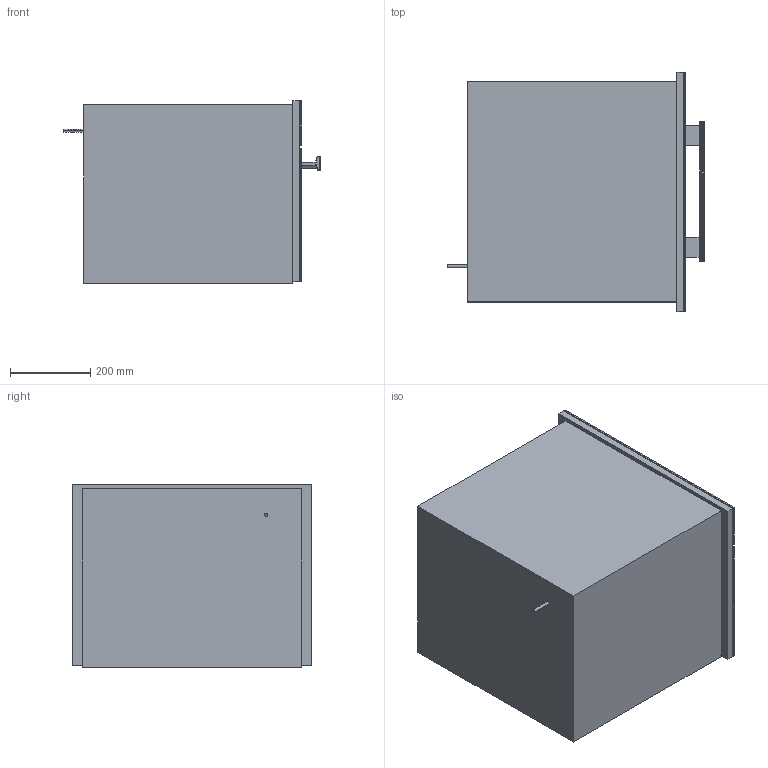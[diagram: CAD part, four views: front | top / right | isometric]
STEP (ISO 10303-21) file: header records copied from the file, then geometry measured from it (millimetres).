
FILE_DESCRIPTION(/* description */ (''),/* implementation_level */ '2;1');
FILE_NAME(/* name */ 'DG6800_BRWS',/* time_stamp */ '2013-03-11T12:09:18+01:00',/* author */ (''),/* organization */ (''),/* preprocessor_version */ 'ST-DEVELOPER v10',/* originating_system */ '',/* authorisation */ '');
FILE_SCHEMA (('AUTOMOTIVE_DESIGN_CC2'));
Length unit declared in the file: millimetre
Products named in the file (1): 1
Bounding box: 639.34 x 595 x 455.18 mm (x, y, z)
Volume: 98115635.5 mm3; surface area: 3372492.7 mm2
Topology: 43 solids, 44 shells, 243 faces, 446 edges, 288 vertices
Faces by surface type: bspline 243
Entity records: 12449 total; most frequent: CARTESIAN_POINT 9371, ORIENTED_EDGE 872, EDGE_CURVE 442, VERTEX_POINT 288, EDGE_LOOP 247, ADVANCED_FACE 243, FACE_OUTER_BOUND 243, B_SPLINE_CURVE_WITH_KNOTS 142
